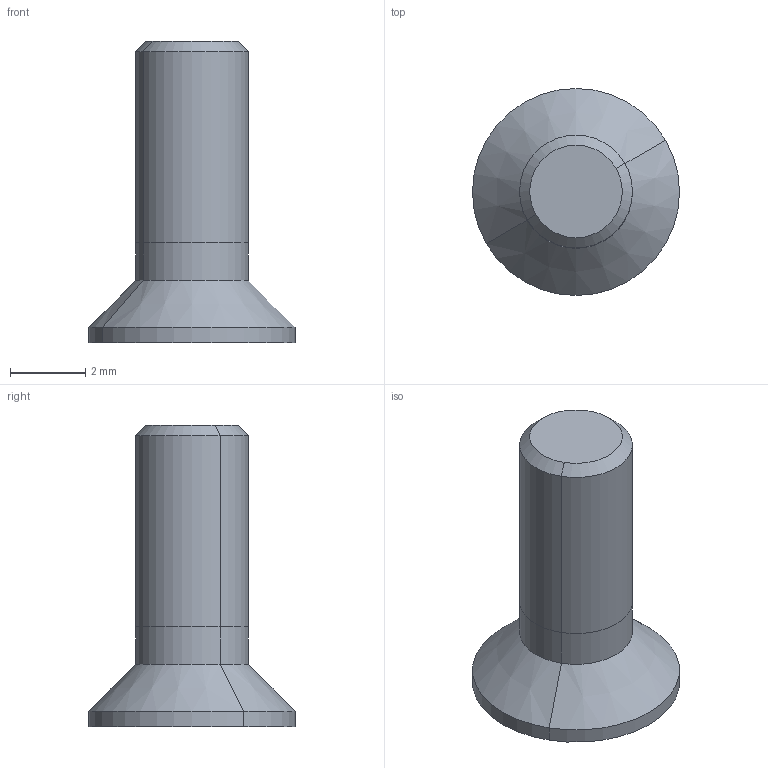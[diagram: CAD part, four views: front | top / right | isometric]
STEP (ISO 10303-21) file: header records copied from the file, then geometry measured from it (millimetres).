
FILE_DESCRIPTION(/* description */ ('VariCAD 2008 3.04 AP-203'),/* implementation_level */ '2;1');
FILE_NAME(/* name */ '0353-97-10',/* time_stamp */ '2009-04-29T14:29:58-06:00',/* author */ (''),/* organization */ (''),/* preprocessor_version */ 'ST-DEVELOPER v12',/* originating_system */ 'VariCAD 2008 3.04; kernel version (20080715)',/* authorisation */ '');
FILE_SCHEMA (('CONFIG_CONTROL_DESIGN'));
Length unit declared in the file: millimetre
Products named in the file (1): Part
Bounding box: 5.5 x 5.5 x 8 mm (x, y, z)
Volume: 64.8 mm3; surface area: 221.6 mm2
Topology: 2 solids, 2 shells, 33 faces, 64 edges, 36 vertices
Faces by surface type: cone 12, plane 11, cylinder 10
Entity records: 904 total; most frequent: CARTESIAN_POINT 176, DIRECTION 156, ORIENTED_EDGE 128, EDGE_CURVE 64, AXIS2_PLACEMENT_3D 64, EDGE_LOOP 36, VERTEX_POINT 36, ADVANCED_FACE 33
